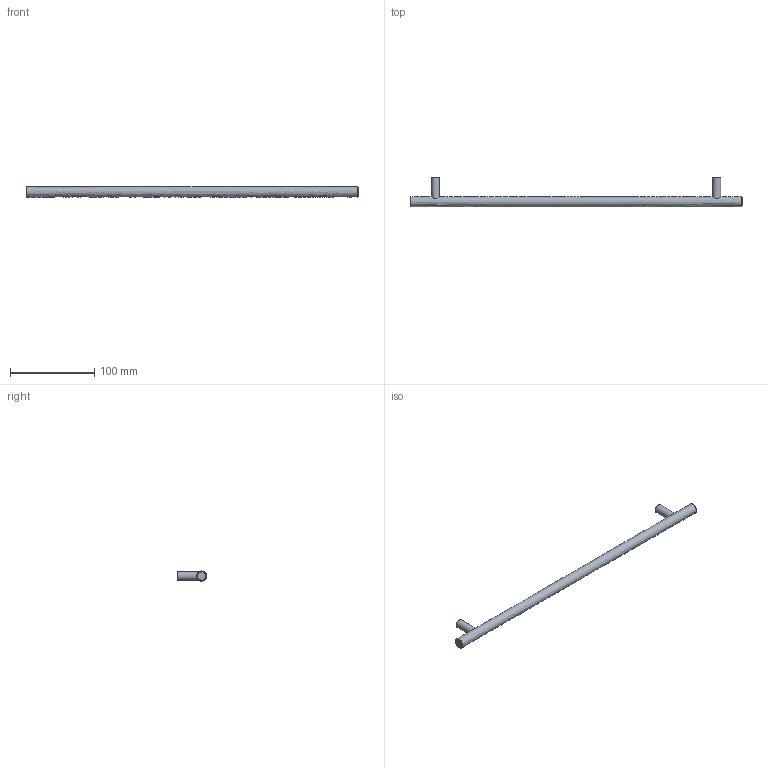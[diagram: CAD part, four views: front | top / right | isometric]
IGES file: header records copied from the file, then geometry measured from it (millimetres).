
Start section: Data from Parasolid IGES Translator 15.0.47, Copyright(c) 2006 Siemens P LM Software. All Rights Reserved.
Global section: file name: 9070733.igs; native system:  By UGS Corp.; preprocessor: XPlus GENERIC/IGES 3.0; author: Noname; organization: Noname; date: 20140123.103908; units: millimetre
Bounding box: 394 x 35 x 12 mm (x, y, z)
Surface area: 16751.2 mm2 (no closed solid volume)
Topology: 0 solids, 0 shells, 13 faces, 42 edges, 34 vertices
Faces by surface type: revolution 7, extrusion 6
